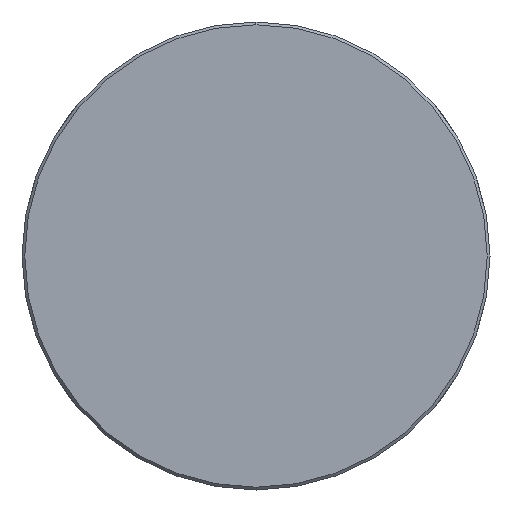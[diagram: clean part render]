
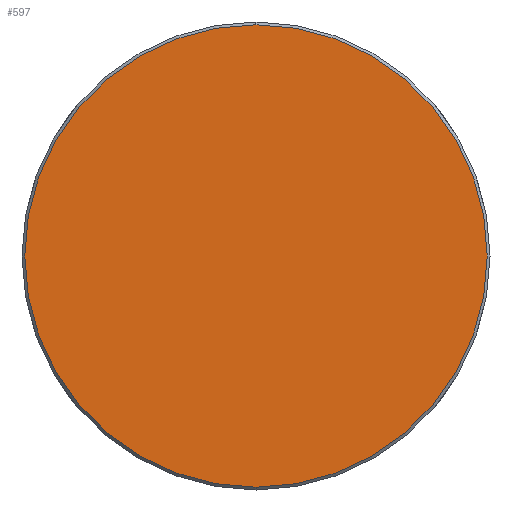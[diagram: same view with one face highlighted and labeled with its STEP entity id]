
A CAD part, left-side view. The second image highlights one B-rep face of the part: STEP entity #597.
In plain terms, the highlighted planar face has unit normal (-1, 0, 0).
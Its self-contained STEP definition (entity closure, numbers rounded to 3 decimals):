
#91 = DIRECTION ( 'NONE',  ( -1., 0., 0. ) ) ;
#115 = CARTESIAN_POINT ( 'NONE',  ( -87.85, 0., 41.5 ) ) ;
#228 = CARTESIAN_POINT ( 'NONE',  ( -87.85, 0., 0. ) ) ;
#342 = ORIENTED_EDGE ( 'NONE', *, *, #443, .T. ) ;
#358 = AXIS2_PLACEMENT_3D ( 'NONE', #1493, #91, #1592 ) ;
#430 = AXIS2_PLACEMENT_3D ( 'NONE', #1619, #591, #1491 ) ;
#443 = EDGE_CURVE ( 'NONE', #913, #1198, #753, .T. ) ;
#490 = AXIS2_PLACEMENT_3D ( 'NONE', #228, #1214, #1089 ) ;
#543 = EDGE_CURVE ( 'NONE', #1198, #913, #862, .T. ) ;
#591 = DIRECTION ( 'NONE',  ( 1., 0., 0. ) ) ;
#597 = ADVANCED_FACE ( 'NONE', ( #1489 ), #1596, .F. ) ;
#753 = CIRCLE ( 'NONE', #358, 41.5 ) ;
#862 = CIRCLE ( 'NONE', #490, 41.5 ) ;
#913 = VERTEX_POINT ( 'NONE', #1015 ) ;
#1015 = CARTESIAN_POINT ( 'NONE',  ( -87.85, 0., -41.5 ) ) ;
#1089 = DIRECTION ( 'NONE',  ( 0., 0., -1. ) ) ;
#1198 = VERTEX_POINT ( 'NONE', #115 ) ;
#1214 = DIRECTION ( 'NONE',  ( -1., 0., 0. ) ) ;
#1291 = EDGE_LOOP ( 'NONE', ( #342, #1498 ) ) ;
#1489 = FACE_OUTER_BOUND ( 'NONE', #1291, .T. ) ;
#1491 = DIRECTION ( 'NONE',  ( 0., 0., -1. ) ) ;
#1493 = CARTESIAN_POINT ( 'NONE',  ( -87.85, 0., 0. ) ) ;
#1498 = ORIENTED_EDGE ( 'NONE', *, *, #543, .T. ) ;
#1592 = DIRECTION ( 'NONE',  ( 0., 0., -1. ) ) ;
#1596 = PLANE ( 'NONE',  #430 ) ;
#1619 = CARTESIAN_POINT ( 'NONE',  ( -87.85, -41.998, 41.998 ) ) ;
